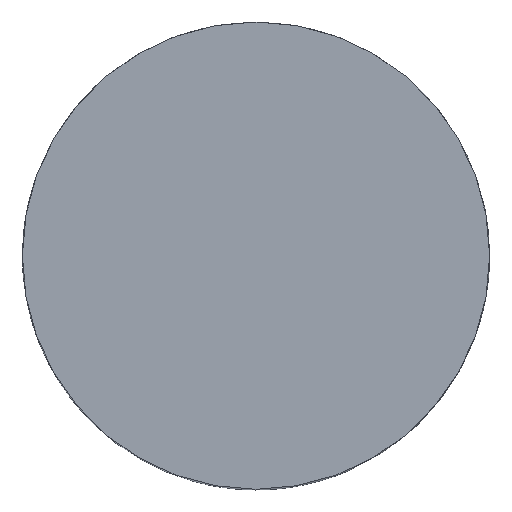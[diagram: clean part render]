
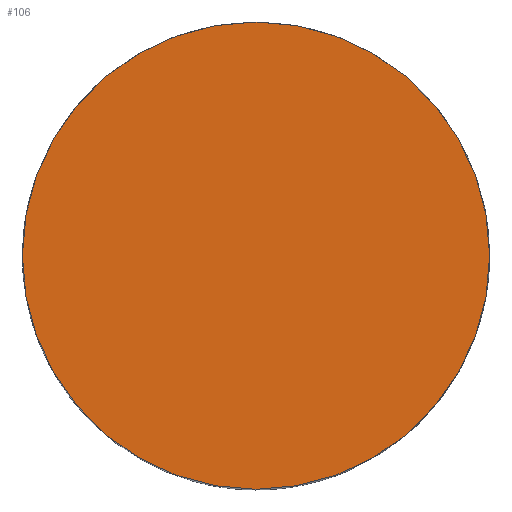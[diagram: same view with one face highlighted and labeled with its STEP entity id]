
A CAD part, top view. The second image highlights one B-rep face of the part: STEP entity #106.
In plain terms, the highlighted planar face has unit normal (0, 0, 1).
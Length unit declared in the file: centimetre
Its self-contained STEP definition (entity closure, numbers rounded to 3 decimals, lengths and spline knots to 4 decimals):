
#34=CIRCLE('',#112,0.4445);
#54=VERTEX_POINT('',#211);
#66=EDGE_CURVE('',#54,#54,#34,.T.);
#86=ORIENTED_EDGE('',*,*,#66,.F.);
#93=EDGE_LOOP('',(#86));
#100=FACE_BOUND('',#93,.T.);
#106=ADVANCED_FACE('',(#100),#215,.T.);
#112=AXIS2_PLACEMENT_3D('',#210,#125,#126);
#113=AXIS2_PLACEMENT_3D('',#212,#127,$);
#125=DIRECTION('',(0.,0.,-1.));
#126=DIRECTION('',(0.445,0.,0.));
#127=DIRECTION('',(0.,0.,1.));
#210=CARTESIAN_POINT('',(0.,0.,0.9652));
#211=CARTESIAN_POINT('',(0.4445,0.,0.9652));
#212=CARTESIAN_POINT('',(0.,0.,0.9652));
#215=PLANE('',#113);
